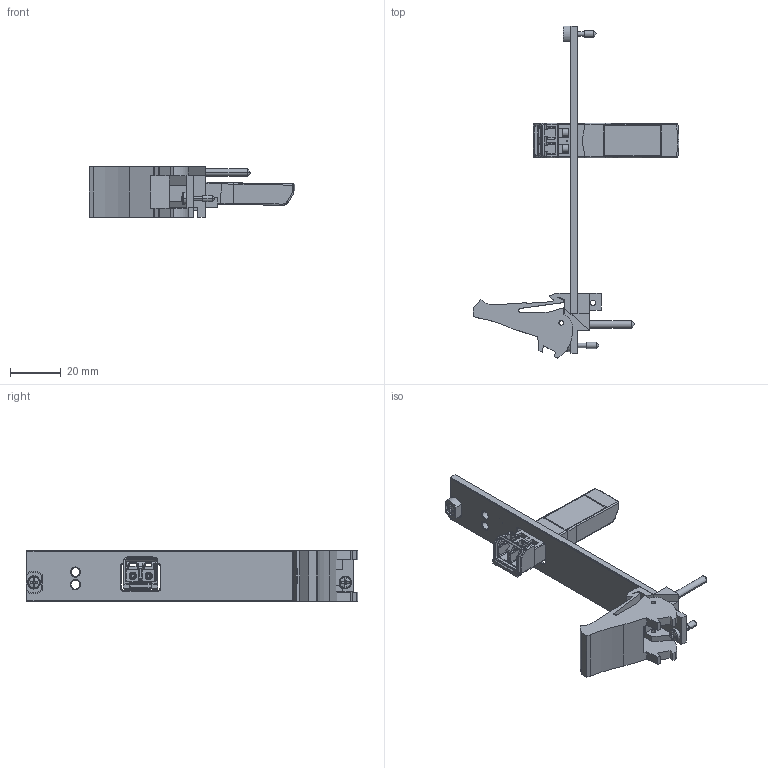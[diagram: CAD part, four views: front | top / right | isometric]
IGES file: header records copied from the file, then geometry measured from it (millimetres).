
Start section:  PTC IGES file: cu_pxi-8368.igs
Global section: file name: cu_pxi-8368.igs; native system: Creo Parametric by Parametric Technology Corporation; preprocessor: 2015280; author: nmeriwet; organization: Unknown; date: 20160316.143519; units: inch
Bounding box: 80.91 x 130.5 x 20.02 mm (x, y, z)
Surface area: 15317.5 mm2 (no closed solid volume)
Topology: 0 solids, 0 shells, 804 faces, 4358 edges, 4352 vertices
Faces by surface type: bspline 456, revolution 348
